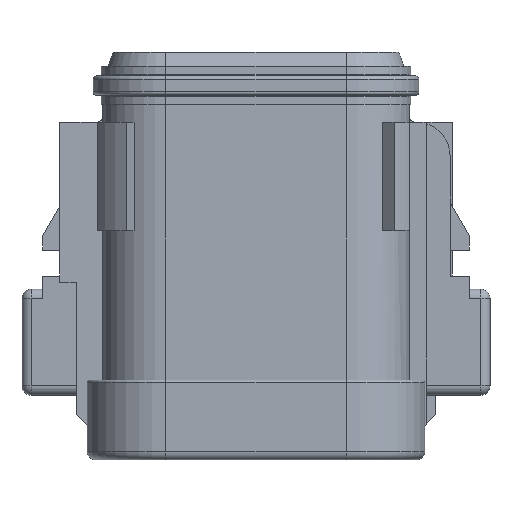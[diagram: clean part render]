
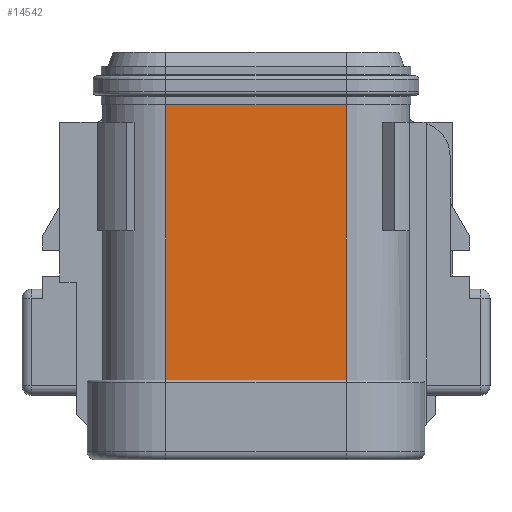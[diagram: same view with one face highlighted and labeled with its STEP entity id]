
A CAD part, front view. The second image highlights one B-rep face of the part: STEP entity #14542.
In plain terms, the highlighted planar face has unit normal (0, -1, 0).
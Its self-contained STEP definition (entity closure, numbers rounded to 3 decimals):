
#3240=DIRECTION('',(0.,0.,-1.));
#3241=VECTOR('',#3240,21.882);
#3242=CARTESIAN_POINT('',(7.176,-9.855,-4.204));
#3243=LINE('',#3242,#3241);
#4907=DIRECTION('',(1.,0.,0.));
#4908=VECTOR('',#4907,14.351);
#4909=CARTESIAN_POINT('',(-7.176,-9.855,-26.086));
#4910=LINE('',#4909,#4908);
#4911=DIRECTION('',(0.,0.,-1.));
#4912=VECTOR('',#4911,21.882);
#4913=CARTESIAN_POINT('',(-7.176,-9.855,-4.204));
#4914=LINE('',#4913,#4912);
#4915=DIRECTION('',(1.,0.,0.));
#4916=VECTOR('',#4915,14.351);
#4917=CARTESIAN_POINT('',(-7.176,-9.855,-4.204));
#4918=LINE('',#4917,#4916);
#7341=CARTESIAN_POINT('',(-7.176,-9.855,-4.204));
#7342=VERTEX_POINT('',#7341);
#7343=CARTESIAN_POINT('',(7.176,-9.855,-4.204));
#7344=VERTEX_POINT('',#7343);
#8177=CARTESIAN_POINT('',(-7.176,-9.855,-26.086));
#8178=VERTEX_POINT('',#8177);
#8179=CARTESIAN_POINT('',(7.176,-9.855,-26.086));
#8180=VERTEX_POINT('',#8179);
#14531=CARTESIAN_POINT('',(-7.176,-9.855,-3.81));
#14532=DIRECTION('',(0.,-1.,0.));
#14533=DIRECTION('',(1.,0.,0.));
#14534=AXIS2_PLACEMENT_3D('',#14531,#14532,#14533);
#14535=PLANE('',#14534);
#14536=ORIENTED_EDGE('',*,*,#9631,.F.);
#14537=ORIENTED_EDGE('',*,*,#12078,.F.);
#14538=ORIENTED_EDGE('',*,*,#9584,.T.);
#14539=ORIENTED_EDGE('',*,*,#12021,.T.);
#14540=EDGE_LOOP('',(#14536,#14537,#14538,#14539));
#14541=FACE_OUTER_BOUND('',#14540,.F.);
#14542=ADVANCED_FACE('',(#14541),#14535,.T.);
#9584=EDGE_CURVE('',#7342,#7344,#4918,.T.);
#9631=EDGE_CURVE('',#8178,#8180,#4910,.T.);
#12021=EDGE_CURVE('',#7344,#8180,#3243,.T.);
#12078=EDGE_CURVE('',#7342,#8178,#4914,.T.);
